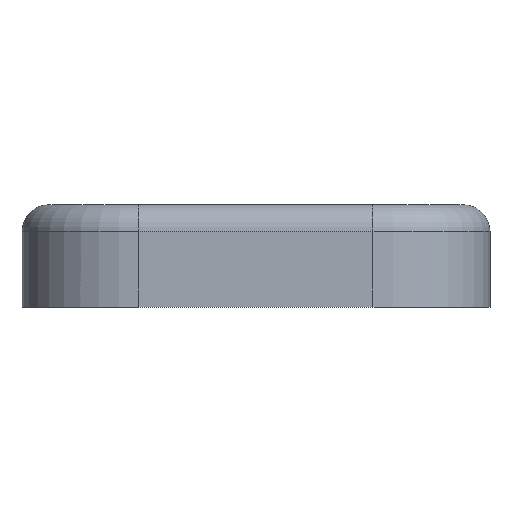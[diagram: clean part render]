
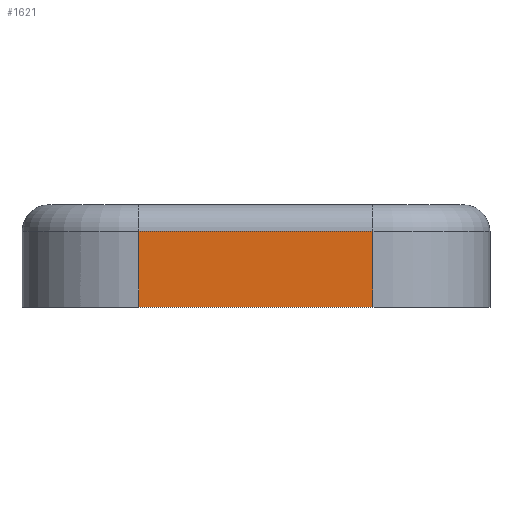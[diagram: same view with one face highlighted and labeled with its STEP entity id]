
A CAD part, front view. The second image highlights one B-rep face of the part: STEP entity #1621.
In plain terms, the highlighted planar face has unit normal (0, -1, 0).
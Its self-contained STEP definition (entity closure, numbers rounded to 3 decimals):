
#44 = CYLINDRICAL_SURFACE('',#45,22.);
#45 = AXIS2_PLACEMENT_3D('',#46,#47,#48);
#46 = CARTESIAN_POINT('',(-22.,-46.,-12.75));
#47 = DIRECTION('',(0.,0.,1.));
#48 = DIRECTION('',(-1.,-0.,0.));
#71 = PLANE('',#72);
#72 = AXIS2_PLACEMENT_3D('',#73,#74,#75);
#73 = CARTESIAN_POINT('',(-90.,-110.,-7.5));
#74 = DIRECTION('',(0.,0.,1.));
#75 = DIRECTION('',(1.,0.,0.));
#358 = VERTEX_POINT('',#359);
#359 = CARTESIAN_POINT('',(-22.,-68.,-7.5));
#381 = EDGE_CURVE('',#358,#382,#384,.T.);
#382 = VERTEX_POINT('',#383);
#383 = CARTESIAN_POINT('',(-22.,-68.,6.75));
#384 = SURFACE_CURVE('',#385,(#389,#396),.PCURVE_S1.);
#385 = LINE('',#386,#387);
#386 = CARTESIAN_POINT('',(-22.,-68.,-12.75));
#387 = VECTOR('',#388,1.);
#388 = DIRECTION('',(0.,0.,1.));
#389 = PCURVE('',#44,#390);
#390 = DEFINITIONAL_REPRESENTATION('',(#391),#395);
#391 = LINE('',#392,#393);
#392 = CARTESIAN_POINT('',(1.571,0.));
#393 = VECTOR('',#394,1.);
#394 = DIRECTION('',(0.,1.));
#395 = ( GEOMETRIC_REPRESENTATION_CONTEXT(2) 
PARAMETRIC_REPRESENTATION_CONTEXT() REPRESENTATION_CONTEXT('2D SPACE',''
  ) );
#396 = PCURVE('',#397,#402);
#397 = PLANE('',#398);
#398 = AXIS2_PLACEMENT_3D('',#399,#400,#401);
#399 = CARTESIAN_POINT('',(-44.,-68.,-12.75));
#400 = DIRECTION('',(0.,1.,0.));
#401 = DIRECTION('',(0.,0.,1.));
#402 = DEFINITIONAL_REPRESENTATION('',(#403),#407);
#403 = LINE('',#404,#405);
#404 = CARTESIAN_POINT('',(0.,22.));
#405 = VECTOR('',#406,1.);
#406 = DIRECTION('',(1.,0.));
#407 = ( GEOMETRIC_REPRESENTATION_CONTEXT(2) 
PARAMETRIC_REPRESENTATION_CONTEXT() REPRESENTATION_CONTEXT('2D SPACE',''
  ) );
#1140 = EDGE_CURVE('',#358,#1141,#1143,.T.);
#1141 = VERTEX_POINT('',#1142);
#1142 = CARTESIAN_POINT('',(22.,-68.,-7.5));
#1143 = SURFACE_CURVE('',#1144,(#1148,#1154),.PCURVE_S1.);
#1144 = LINE('',#1145,#1146);
#1145 = CARTESIAN_POINT('',(-67.,-68.,-7.5));
#1146 = VECTOR('',#1147,1.);
#1147 = DIRECTION('',(1.,0.,0.));
#1148 = PCURVE('',#71,#1149);
#1149 = DEFINITIONAL_REPRESENTATION('',(#1150),#1153);
#1150 = B_SPLINE_CURVE_WITH_KNOTS('',1,(#1151,#1152),.UNSPECIFIED.,.F.,
  .F.,(2,2),(45.,89.),.PIECEWISE_BEZIER_KNOTS.);
#1151 = CARTESIAN_POINT('',(68.,42.));
#1152 = CARTESIAN_POINT('',(112.,42.));
#1153 = ( GEOMETRIC_REPRESENTATION_CONTEXT(2) 
PARAMETRIC_REPRESENTATION_CONTEXT() REPRESENTATION_CONTEXT('2D SPACE',''
  ) );
#1154 = PCURVE('',#397,#1155);
#1155 = DEFINITIONAL_REPRESENTATION('',(#1156),#1159);
#1156 = B_SPLINE_CURVE_WITH_KNOTS('',1,(#1157,#1158),.UNSPECIFIED.,.F.,
  .F.,(2,2),(45.,89.),.PIECEWISE_BEZIER_KNOTS.);
#1157 = CARTESIAN_POINT('',(5.25,22.));
#1158 = CARTESIAN_POINT('',(5.25,66.));
#1159 = ( GEOMETRIC_REPRESENTATION_CONTEXT(2) 
PARAMETRIC_REPRESENTATION_CONTEXT() REPRESENTATION_CONTEXT('2D SPACE',''
  ) );
#1178 = CYLINDRICAL_SURFACE('',#1179,22.);
#1179 = AXIS2_PLACEMENT_3D('',#1180,#1181,#1182);
#1180 = CARTESIAN_POINT('',(22.,-46.,-12.75));
#1181 = DIRECTION('',(0.,0.,1.));
#1182 = DIRECTION('',(1.,0.,-0.));
#1582 = CYLINDRICAL_SURFACE('',#1583,5.);
#1583 = AXIS2_PLACEMENT_3D('',#1584,#1585,#1586);
#1584 = CARTESIAN_POINT('',(22.,-63.,6.75));
#1585 = DIRECTION('',(-1.,-0.,-0.));
#1586 = DIRECTION('',(0.,-1.,0.));
#1621 = ADVANCED_FACE('',(#1622),#397,.F.);
#1622 = FACE_BOUND('',#1623,.F.);
#1623 = EDGE_LOOP('',(#1624,#1625,#1626,#1649));
#1624 = ORIENTED_EDGE('',*,*,#1140,.F.);
#1625 = ORIENTED_EDGE('',*,*,#381,.T.);
#1626 = ORIENTED_EDGE('',*,*,#1627,.F.);
#1627 = EDGE_CURVE('',#1628,#382,#1630,.T.);
#1628 = VERTEX_POINT('',#1629);
#1629 = CARTESIAN_POINT('',(22.,-68.,6.75));
#1630 = SURFACE_CURVE('',#1631,(#1635,#1642),.PCURVE_S1.);
#1631 = LINE('',#1632,#1633);
#1632 = CARTESIAN_POINT('',(22.,-68.,6.75));
#1633 = VECTOR('',#1634,1.);
#1634 = DIRECTION('',(-1.,-0.,-0.));
#1635 = PCURVE('',#397,#1636);
#1636 = DEFINITIONAL_REPRESENTATION('',(#1637),#1641);
#1637 = LINE('',#1638,#1639);
#1638 = CARTESIAN_POINT('',(19.5,66.));
#1639 = VECTOR('',#1640,1.);
#1640 = DIRECTION('',(0.,-1.));
#1641 = ( GEOMETRIC_REPRESENTATION_CONTEXT(2) 
PARAMETRIC_REPRESENTATION_CONTEXT() REPRESENTATION_CONTEXT('2D SPACE',''
  ) );
#1642 = PCURVE('',#1582,#1643);
#1643 = DEFINITIONAL_REPRESENTATION('',(#1644),#1648);
#1644 = LINE('',#1645,#1646);
#1645 = CARTESIAN_POINT('',(0.,0.));
#1646 = VECTOR('',#1647,1.);
#1647 = DIRECTION('',(0.,1.));
#1648 = ( GEOMETRIC_REPRESENTATION_CONTEXT(2) 
PARAMETRIC_REPRESENTATION_CONTEXT() REPRESENTATION_CONTEXT('2D SPACE',''
  ) );
#1649 = ORIENTED_EDGE('',*,*,#1650,.F.);
#1650 = EDGE_CURVE('',#1141,#1628,#1651,.T.);
#1651 = SURFACE_CURVE('',#1652,(#1656,#1663),.PCURVE_S1.);
#1652 = LINE('',#1653,#1654);
#1653 = CARTESIAN_POINT('',(22.,-68.,-12.75));
#1654 = VECTOR('',#1655,1.);
#1655 = DIRECTION('',(0.,0.,1.));
#1656 = PCURVE('',#397,#1657);
#1657 = DEFINITIONAL_REPRESENTATION('',(#1658),#1662);
#1658 = LINE('',#1659,#1660);
#1659 = CARTESIAN_POINT('',(0.,66.));
#1660 = VECTOR('',#1661,1.);
#1661 = DIRECTION('',(1.,0.));
#1662 = ( GEOMETRIC_REPRESENTATION_CONTEXT(2) 
PARAMETRIC_REPRESENTATION_CONTEXT() REPRESENTATION_CONTEXT('2D SPACE',''
  ) );
#1663 = PCURVE('',#1178,#1664);
#1664 = DEFINITIONAL_REPRESENTATION('',(#1665),#1669);
#1665 = LINE('',#1666,#1667);
#1666 = CARTESIAN_POINT('',(-1.571,0.));
#1667 = VECTOR('',#1668,1.);
#1668 = DIRECTION('',(-0.,1.));
#1669 = ( GEOMETRIC_REPRESENTATION_CONTEXT(2) 
PARAMETRIC_REPRESENTATION_CONTEXT() REPRESENTATION_CONTEXT('2D SPACE',''
  ) );
